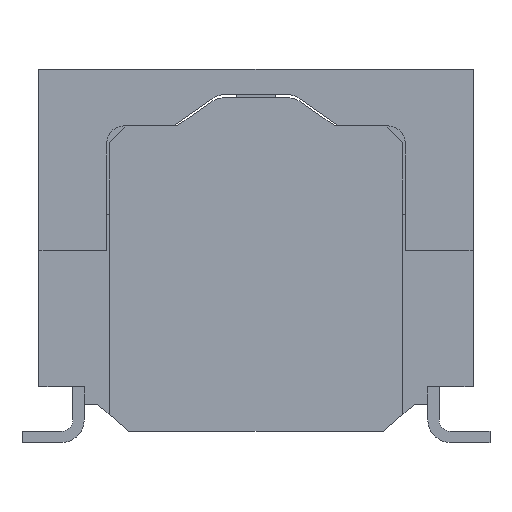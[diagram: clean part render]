
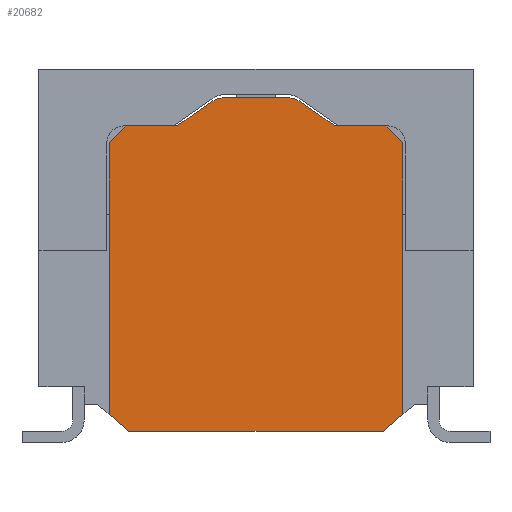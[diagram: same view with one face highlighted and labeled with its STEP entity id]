
A CAD part, front view. The second image highlights one B-rep face of the part: STEP entity #20682.
In plain terms, the highlighted planar face has unit normal (0, -1, 0).
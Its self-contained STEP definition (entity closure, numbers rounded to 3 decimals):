
#598 = CARTESIAN_POINT ( 'NONE',  ( 1.002, -13.843, 7.655 ) ) ;
#851 = CARTESIAN_POINT ( 'NONE',  ( -4.877, -13.843, 7.112 ) ) ;
#1087 = LINE ( 'NONE', #48259, #43329 ) ;
#1120 = DIRECTION ( 'NONE',  ( 0., 1., 0. ) ) ;
#1360 = VERTEX_POINT ( 'NONE', #67785 ) ;
#2099 = EDGE_CURVE ( 'NONE', #1360, #16010, #30158, .T. ) ;
#2397 = ORIENTED_EDGE ( 'NONE', *, *, #68476, .F. ) ;
#3115 = VERTEX_POINT ( 'NONE', #61090 ) ;
#4304 = EDGE_CURVE ( 'NONE', #57074, #58033, #4800, .T. ) ;
#4800 = CIRCLE ( 'NONE', #4898, 0.508 ) ;
#4898 = AXIS2_PLACEMENT_3D ( 'NONE', #34193, #1120, #39678 ) ;
#5915 = DIRECTION ( 'NONE',  ( 0.819, 0., -0.574 ) ) ;
#5940 = FACE_OUTER_BOUND ( 'NONE', #19932, .T. ) ;
#6360 = DIRECTION ( 'NONE',  ( -0.758, 0., 0.653 ) ) ;
#6518 = AXIS2_PLACEMENT_3D ( 'NONE', #32869, #71423, #38386 ) ;
#7468 = VECTOR ( 'NONE', #19012, 1000. ) ;
#7535 = VECTOR ( 'NONE', #40912, 1000. ) ;
#7790 = DIRECTION ( 'NONE',  ( 0.707, 0., -0.707 ) ) ;
#7902 = CARTESIAN_POINT ( 'NONE',  ( -4.877, -13.843, 7.112 ) ) ;
#9280 = LINE ( 'NONE', #52304, #7535 ) ;
#10512 = EDGE_CURVE ( 'NONE', #50325, #71347, #48252, .T. ) ;
#11700 = LINE ( 'NONE', #37266, #26353 ) ;
#12778 = VERTEX_POINT ( 'NONE', #14415 ) ;
#13437 = CARTESIAN_POINT ( 'NONE',  ( -3.302, -13.843, 7.112 ) ) ;
#14351 = DIRECTION ( 'NONE',  ( 0.819, 0., 0.574 ) ) ;
#14415 = CARTESIAN_POINT ( 'NONE',  ( 3.302, -13.843, 6.731 ) ) ;
#15031 = VERTEX_POINT ( 'NONE', #47537 ) ;
#16010 = VERTEX_POINT ( 'NONE', #598 ) ;
#16719 = CARTESIAN_POINT ( 'NONE',  ( 1.002, -13.843, 7.655 ) ) ;
#19012 = DIRECTION ( 'NONE',  ( 0., 0., 1. ) ) ;
#19270 = CARTESIAN_POINT ( 'NONE',  ( -3.302, -13.843, 0.635 ) ) ;
#19445 = VECTOR ( 'NONE', #30035, 1000. ) ;
#19932 = EDGE_LOOP ( 'NONE', ( #25223, #53368, #45553, #2397, #62253, #23848, #33786, #58163, #68751, #54316, #54931, #37875, #20687, #54791 ) ) ;
#20682 = ADVANCED_FACE ( 'NONE', ( #5940 ), #49258, .F. ) ;
#20687 = ORIENTED_EDGE ( 'NONE', *, *, #55917, .F. ) ;
#21558 = VERTEX_POINT ( 'NONE', #19270 ) ;
#21698 = CARTESIAN_POINT ( 'NONE',  ( 2.86, -13.843, 0.254 ) ) ;
#21747 = CARTESIAN_POINT ( 'NONE',  ( 1.778, -13.843, 7.112 ) ) ;
#22193 = LINE ( 'NONE', #44860, #51481 ) ;
#23848 = ORIENTED_EDGE ( 'NONE', *, *, #54003, .F. ) ;
#24014 = EDGE_CURVE ( 'NONE', #58033, #1360, #66349, .T. ) ;
#24121 = VECTOR ( 'NONE', #67824, 1000. ) ;
#24185 = CARTESIAN_POINT ( 'NONE',  ( 2.921, -13.843, 7.112 ) ) ;
#25223 = ORIENTED_EDGE ( 'NONE', *, *, #31037, .F. ) ;
#25972 = LINE ( 'NONE', #16719, #40556 ) ;
#26259 = VECTOR ( 'NONE', #7790, 1000. ) ;
#26353 = VECTOR ( 'NONE', #48582, 1000. ) ;
#26675 = DIRECTION ( 'NONE',  ( 0., 1., 0. ) ) ;
#26701 = LINE ( 'NONE', #64215, #54258 ) ;
#28182 = EDGE_CURVE ( 'NONE', #12778, #62941, #9280, .T. ) ;
#29311 = CARTESIAN_POINT ( 'NONE',  ( -4.877, -13.843, 7.747 ) ) ;
#30035 = DIRECTION ( 'NONE',  ( -1., 0., 0. ) ) ;
#30158 = CIRCLE ( 'NONE', #61442, 0.508 ) ;
#31037 = EDGE_CURVE ( 'NONE', #40083, #38464, #32345, .T. ) ;
#32345 = LINE ( 'NONE', #57450, #19445 ) ;
#32592 = EDGE_CURVE ( 'NONE', #41452, #57074, #26701, .T. ) ;
#32869 = CARTESIAN_POINT ( 'NONE',  ( -4.877, -13.843, 7.112 ) ) ;
#33786 = ORIENTED_EDGE ( 'NONE', *, *, #2099, .F. ) ;
#34193 = CARTESIAN_POINT ( 'NONE',  ( -0.711, -13.843, 7.239 ) ) ;
#35658 = EDGE_CURVE ( 'NONE', #15031, #3115, #1087, .T. ) ;
#37266 = CARTESIAN_POINT ( 'NONE',  ( 3.556, -13.843, 0.853 ) ) ;
#37769 = LINE ( 'NONE', #851, #67061 ) ;
#37875 = ORIENTED_EDGE ( 'NONE', *, *, #35658, .F. ) ;
#38076 = EDGE_CURVE ( 'NONE', #40083, #62941, #11700, .T. ) ;
#38386 = DIRECTION ( 'NONE',  ( 0., 0., 1. ) ) ;
#38464 = VERTEX_POINT ( 'NONE', #57651 ) ;
#39405 = DIRECTION ( 'NONE',  ( -1., 0., 0. ) ) ;
#39678 = DIRECTION ( 'NONE',  ( 0., 0., -1. ) ) ;
#39736 = CARTESIAN_POINT ( 'NONE',  ( -1.002, -13.843, 7.655 ) ) ;
#40083 = VERTEX_POINT ( 'NONE', #21698 ) ;
#40556 = VECTOR ( 'NONE', #5915, 1000. ) ;
#40857 = LINE ( 'NONE', #24185, #26259 ) ;
#40912 = DIRECTION ( 'NONE',  ( 0., 0., -1. ) ) ;
#41452 = VERTEX_POINT ( 'NONE', #67491 ) ;
#42374 = EDGE_CURVE ( 'NONE', #38464, #21558, #22193, .T. ) ;
#42915 = DIRECTION ( 'NONE',  ( 0.707, 0., 0.707 ) ) ;
#43329 = VECTOR ( 'NONE', #42915, 1000. ) ;
#44860 = CARTESIAN_POINT ( 'NONE',  ( -3.556, -13.843, 0.853 ) ) ;
#45553 = ORIENTED_EDGE ( 'NONE', *, *, #28182, .F. ) ;
#45673 = EDGE_CURVE ( 'NONE', #41452, #3115, #37769, .T. ) ;
#46447 = DIRECTION ( 'NONE',  ( -1., 0., 0. ) ) ;
#47537 = CARTESIAN_POINT ( 'NONE',  ( -3.302, -13.843, 6.731 ) ) ;
#48252 = LINE ( 'NONE', #7902, #59448 ) ;
#48259 = CARTESIAN_POINT ( 'NONE',  ( -3.302, -13.843, 6.731 ) ) ;
#48552 = CARTESIAN_POINT ( 'NONE',  ( -0.711, -13.843, 7.747 ) ) ;
#48582 = DIRECTION ( 'NONE',  ( 0.758, 0., 0.653 ) ) ;
#49258 = PLANE ( 'NONE',  #6518 ) ;
#50325 = VERTEX_POINT ( 'NONE', #71565 ) ;
#51409 = LINE ( 'NONE', #13437, #7468 ) ;
#51481 = VECTOR ( 'NONE', #6360, 1000. ) ;
#52304 = CARTESIAN_POINT ( 'NONE',  ( 3.302, -13.843, 7.112 ) ) ;
#53368 = ORIENTED_EDGE ( 'NONE', *, *, #38076, .T. ) ;
#54003 = EDGE_CURVE ( 'NONE', #16010, #71347, #25972, .T. ) ;
#54258 = VECTOR ( 'NONE', #14351, 1000. ) ;
#54316 = ORIENTED_EDGE ( 'NONE', *, *, #32592, .F. ) ;
#54791 = ORIENTED_EDGE ( 'NONE', *, *, #42374, .F. ) ;
#54931 = ORIENTED_EDGE ( 'NONE', *, *, #45673, .T. ) ;
#55917 = EDGE_CURVE ( 'NONE', #21558, #15031, #51409, .T. ) ;
#57074 = VERTEX_POINT ( 'NONE', #39736 ) ;
#57450 = CARTESIAN_POINT ( 'NONE',  ( 0., -13.843, 0.254 ) ) ;
#57651 = CARTESIAN_POINT ( 'NONE',  ( -2.86, -13.843, 0.254 ) ) ;
#58033 = VERTEX_POINT ( 'NONE', #48552 ) ;
#58163 = ORIENTED_EDGE ( 'NONE', *, *, #24014, .F. ) ;
#59448 = VECTOR ( 'NONE', #46447, 1000. ) ;
#59651 = CARTESIAN_POINT ( 'NONE',  ( 0.711, -13.843, 7.239 ) ) ;
#61090 = CARTESIAN_POINT ( 'NONE',  ( -2.921, -13.843, 7.112 ) ) ;
#61442 = AXIS2_PLACEMENT_3D ( 'NONE', #59651, #26675, #65219 ) ;
#62253 = ORIENTED_EDGE ( 'NONE', *, *, #10512, .T. ) ;
#62941 = VERTEX_POINT ( 'NONE', #67068 ) ;
#64215 = CARTESIAN_POINT ( 'NONE',  ( -1.778, -13.843, 7.112 ) ) ;
#65219 = DIRECTION ( 'NONE',  ( 0., 0., -1. ) ) ;
#66349 = LINE ( 'NONE', #29311, #24121 ) ;
#67061 = VECTOR ( 'NONE', #39405, 1000. ) ;
#67068 = CARTESIAN_POINT ( 'NONE',  ( 3.302, -13.843, 0.635 ) ) ;
#67491 = CARTESIAN_POINT ( 'NONE',  ( -1.778, -13.843, 7.112 ) ) ;
#67785 = CARTESIAN_POINT ( 'NONE',  ( 0.711, -13.843, 7.747 ) ) ;
#67824 = DIRECTION ( 'NONE',  ( 1., 0., 0. ) ) ;
#68476 = EDGE_CURVE ( 'NONE', #50325, #12778, #40857, .T. ) ;
#68751 = ORIENTED_EDGE ( 'NONE', *, *, #4304, .F. ) ;
#71347 = VERTEX_POINT ( 'NONE', #21747 ) ;
#71423 = DIRECTION ( 'NONE',  ( 0., 1., 0. ) ) ;
#71565 = CARTESIAN_POINT ( 'NONE',  ( 2.921, -13.843, 7.112 ) ) ;
